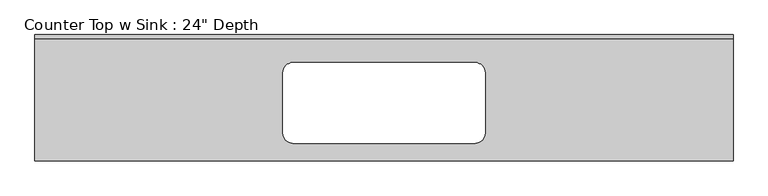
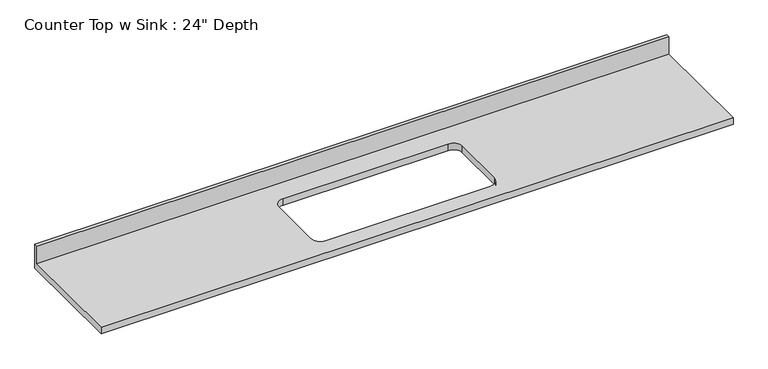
"""IFC4 building model written with IfcOpenShell, lengths in millimetres: furniture geometry."""

from ifc_helpers import new_model, si_unit, frame, origin, place, context, project, spatial, polyline, circle_curve, source, transform, mapped, element, save
from ifc_brep_helpers import plane_surface, revolved_surface, advanced_brep


def furniture_e8a0d2e2(model_context):
    return source(origin(), model_context, "Body", "AdvancedBrep", [
        advanced_brep(
        [(-1200.4622951, -635.0, 914.4), (2304.7377049, -635.0, 914.4), (2304.7377049, -19.05, 914.4), (-1200.4622951, -19.05, 914.4), (94.9377049, -139.7, 914.4), (1009.3377049, -139.7, 914.4), (1060.1377049, -190.5, 914.4), (1060.1377049, -495.3, 914.4), (1009.3377049, -546.1, 914.4), (94.9377049, -546.1, 914.4), (44.1377049, -495.3, 914.4), (44.1377049, -190.5, 914.4), (2304.7377049, 0.0, 876.3), (2304.7377049, -635.0, 876.3), (-1200.4622951, -635.0, 876.3), (-1200.4622951, 0.0, 876.3), (1009.3377049, -139.7, 876.3), (94.9377049, -139.7, 876.3), (44.1377049, -190.5, 876.3), (44.1377049, -495.3, 876.3), (94.9377049, -546.1, 876.3), (1009.3377049, -546.1, 876.3), (1060.1377049, -495.3, 876.3), (1060.1377049, -190.5, 876.3), (-1200.4622951, 0.0, 1016.0), (2304.7377049, 0.0, 1016.0), (-1200.4622951, -19.05, 1016.0), (2304.7377049, -19.05, 1016.0)],
        [
            (0, 1),
            (1, 2),
            (2, 3),
            (3, 0),
            (4, 5),
            (5, 6, circle_curve(frame((1009.3377049, -190.5, 914.4), z_axis=(0.0, 0.0, -1.0), x_axis=(1.0, 0.0, 0.0)), 50.8)),
            (6, 7),
            (7, 8, circle_curve(frame((1009.3377049, -495.3, 914.4), z_axis=(0.0, 0.0, -1.0), x_axis=(1.0, 0.0, 0.0)), 50.8)),
            (8, 9),
            (9, 10, circle_curve(frame((94.9377049, -495.3, 914.4), z_axis=(0.0, 0.0, -1.0), x_axis=(1.0, 0.0, 0.0)), 50.8)),
            (10, 11),
            (11, 4, circle_curve(frame((94.9377049, -190.5, 914.4), z_axis=(0.0, 0.0, -1.0), x_axis=(1.0, 0.0, 0.0)), 50.8)),
            (12, 13),
            (13, 14),
            (14, 15),
            (15, 12),
            (16, 17),
            (17, 18, circle_curve(frame((94.9377049, -190.5, 876.3), z_axis=(0.0, 0.0, 1.0), x_axis=(1.0, 0.0, 0.0)), 50.8)),
            (18, 19),
            (19, 20, circle_curve(frame((94.9377049, -495.3, 876.3), z_axis=(0.0, 0.0, 1.0), x_axis=(1.0, 0.0, 0.0)), 50.8)),
            (20, 21),
            (21, 22, circle_curve(frame((1009.3377049, -495.3, 876.3), z_axis=(0.0, 0.0, 1.0), x_axis=(1.0, 0.0, 0.0)), 50.8)),
            (22, 23),
            (23, 16, circle_curve(frame((1009.3377049, -190.5, 876.3), z_axis=(0.0, 0.0, 1.0), x_axis=(1.0, 0.0, 0.0)), 50.8)),
            (15, 24),
            (24, 25),
            (25, 12),
            (14, 0),
            (3, 26),
            (26, 24),
            (13, 1),
            (25, 27),
            (27, 2),
            (4, 17),
            (16, 5),
            (18, 11),
            (10, 19),
            (20, 9),
            (8, 21),
            (22, 7),
            (6, 23),
            (26, 27),
        ],
        [
            plane_surface(frame((-1200.4622951, 0.0, 914.4), z_axis=(0.0, 0.0, 1.0), x_axis=(-1.0, 0.0, 0.0))),
            plane_surface(frame((-1200.4622951, 0.0, 876.3), z_axis=(0.0, 0.0, -1.0), x_axis=(1.0, 0.0, 0.0))),
            plane_surface(frame((2304.7377049, 0.0, 914.4), z_axis=(0.0, 1.0, 0.0), x_axis=(0.0, 0.0, -1.0))),
            plane_surface(frame((-1200.4622951, 0.0, 914.4), z_axis=(-1.0, 0.0, 0.0), x_axis=(0.0, 0.0, -1.0))),
            plane_surface(frame((-1200.4622951, -635.0, 914.4), z_axis=(0.0, -1.0, 0.0), x_axis=(0.0, 0.0, -1.0))),
            plane_surface(frame((2304.7377049, -635.0, 914.4), z_axis=(1.0, 0.0, 0.0), x_axis=(0.0, 0.0, -1.0))),
            plane_surface(frame((1009.3377049, -139.7, 914.4), z_axis=(0.0, -1.0, 0.0), x_axis=(0.0, 0.0, -1.0))),
            plane_surface(frame((44.1377049, -190.5, 914.4), z_axis=(1.0, 0.0, 0.0), x_axis=(0.0, 0.0, -1.0))),
            plane_surface(frame((94.9377049, -546.1, 914.4), z_axis=(0.0, 1.0, 0.0), x_axis=(0.0, 0.0, -1.0))),
            plane_surface(frame((1060.1377049, -495.3, 914.4), z_axis=(-1.0, 0.0, 0.0), x_axis=(0.0, 0.0, -1.0))),
            revolved_surface(polyline([(145.73770489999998, -190.5, 914.4), (145.73770489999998, -190.5, 876.3)]), (94.9377049, -190.5, 876.3), (0.0, 0.0, 1.0)),
            revolved_surface(polyline([(1060.1377049, -495.3, 914.4), (1060.1377049, -495.3, 876.3)]), (1009.3377049, -495.3, 876.3), (0.0, 0.0, 1.0)),
            revolved_surface(polyline([(1060.1377049, -190.5, 914.4), (1060.1377049, -190.5, 876.3)]), (1009.3377049, -190.5, 876.3), (0.0, 0.0, 1.0)),
            revolved_surface(polyline([(145.73770489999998, -495.3, 914.4), (145.73770489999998, -495.3, 876.3)]), (94.9377049, -495.3, 876.3), (0.0, 0.0, 1.0)),
            plane_surface(frame((-1200.4622951, 0.0, 1016.0), z_axis=(0.0, 0.0, 1.0), x_axis=(0.0, -1.0, 0.0))),
            plane_surface(frame((-1200.4622951, -19.05, 1016.0), z_axis=(0.0, -1.0, 0.0), x_axis=(0.0, 0.0, -1.0))),
        ],
        [
            (0, [[1, 2, 3, 4], [5, 6, 7, 8, 9, 10, 11, 12]]),
            (1, [[13, 14, 15, 16], [17, 18, 19, 20, 21, 22, 23, 24]]),
            (2, [[-16, 25, 26, 27]]),
            (3, [[-15, 28, -4, 29, 30, -25]]),
            (4, [[-1, -28, -14, 31]]),
            (5, [[-13, -27, 32, 33, -2, -31]]),
            (6, [[34, -17, 35, -5]]),
            (7, [[36, -11, 37, -19]]),
            (8, [[38, -9, 39, -21]]),
            (9, [[40, -7, 41, -23]]),
            (10, [[-34, -12, -36, -18]]),
            (11, [[-39, -8, -40, -22]]),
            (12, [[-35, -24, -41, -6]]),
            (13, [[-37, -10, -38, -20]]),
            (14, [[-30, 42, -32, -26]]),
            (15, [[-42, -29, -3, -33]]),
        ],
    ),
    ])


if __name__ == "__main__":
    model = new_model("IFC4")
    model_context = context("Model", 3, world=origin())
    ifc_project = project(units=[si_unit("LENGTHUNIT", "METRE", prefix="MILLI")], contexts=[model_context])
    site = spatial("IfcSite", under=ifc_project)
    building = spatial("IfcBuilding", under=site)
    placement = place(None, origin())
    furniture_shape = furniture_e8a0d2e2(model_context)
    element("IfcFurniture", 1, ObjectType="Counter Top w Sink : 24\" Depth", at=placement, inside=building, context=model_context, shape_type="MappedRepresentation", body=[
        mapped(furniture_shape, transform((0.0, 0.0, 0.0), x_axis=(1.0, 0.0, 0.0), y_axis=(0.0, 1.0, 0.0), z_axis=(0.0, 0.0, 1.0))),
    ])
    save(model, "model.ifc")
